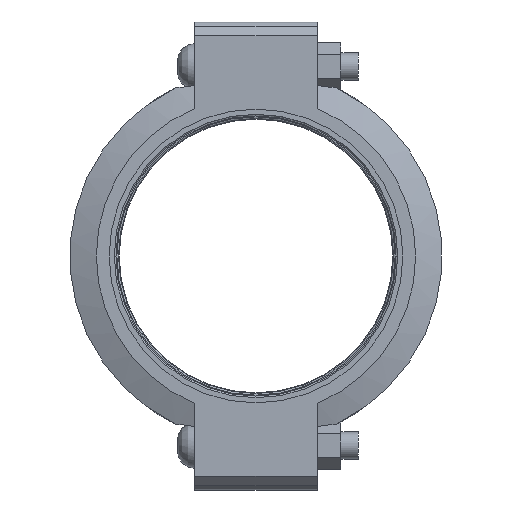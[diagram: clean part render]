
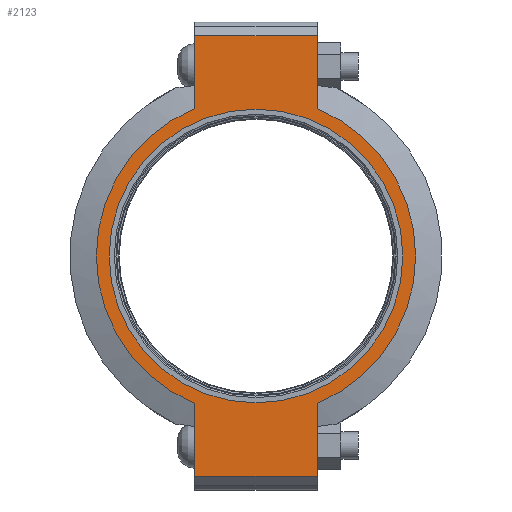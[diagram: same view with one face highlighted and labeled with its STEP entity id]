
A CAD part, left-side view. The second image highlights one B-rep face of the part: STEP entity #2123.
In plain terms, the highlighted planar face has unit normal (-1, 0, 0) as drawn and (0, 0, 1) by its records, which use the part's own axes.
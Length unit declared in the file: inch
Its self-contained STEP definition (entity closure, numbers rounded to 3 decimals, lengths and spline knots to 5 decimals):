
#176=LINE('',#3759,#271);
#187=LINE('',#3810,#282);
#193=LINE('',#3836,#288);
#195=LINE('',#3839,#290);
#196=LINE('',#3844,#291);
#197=LINE('',#3845,#292);
#271=VECTOR('',#3080,0.3937);
#282=VECTOR('',#3111,0.3937);
#288=VECTOR('',#3129,0.3937);
#290=VECTOR('',#3133,0.3937);
#291=VECTOR('',#3138,0.3937);
#292=VECTOR('',#3139,0.3937);
#359=FACE_BOUND('',#632,.T.);
#404=PLANE('',#2495);
#499=FACE_OUTER_BOUND('',#631,.T.);
#631=EDGE_LOOP('',(#1804,#1805,#1806,#1807,#1808,#1809,#1810,#1811));
#632=EDGE_LOOP('',(#1812));
#793=CIRCLE('',#2444,5.375);
#817=CIRCLE('',#2496,5.845);
#818=CIRCLE('',#2497,5.845);
#952=VERTEX_POINT('',#3585);
#993=VERTEX_POINT('',#3756);
#994=VERTEX_POINT('',#3758);
#1011=VERTEX_POINT('',#3805);
#1012=VERTEX_POINT('',#3809);
#1019=VERTEX_POINT('',#3831);
#1020=VERTEX_POINT('',#3835);
#1021=VERTEX_POINT('',#3841);
#1022=VERTEX_POINT('',#3843);
#1201=EDGE_CURVE('',#952,#952,#793,.T.);
#1258=EDGE_CURVE('',#994,#993,#176,.T.);
#1279=EDGE_CURVE('',#1012,#1011,#187,.T.);
#1290=EDGE_CURVE('',#1020,#1019,#193,.T.);
#1292=EDGE_CURVE('',#1020,#993,#195,.T.);
#1293=EDGE_CURVE('',#1019,#1021,#817,.T.);
#1294=EDGE_CURVE('',#1021,#1022,#196,.T.);
#1295=EDGE_CURVE('',#1012,#1022,#197,.T.);
#1296=EDGE_CURVE('',#1011,#994,#818,.T.);
#1804=ORIENTED_EDGE('',*,*,#1292,.F.);
#1805=ORIENTED_EDGE('',*,*,#1290,.T.);
#1806=ORIENTED_EDGE('',*,*,#1293,.T.);
#1807=ORIENTED_EDGE('',*,*,#1294,.T.);
#1808=ORIENTED_EDGE('',*,*,#1295,.F.);
#1809=ORIENTED_EDGE('',*,*,#1279,.T.);
#1810=ORIENTED_EDGE('',*,*,#1296,.T.);
#1811=ORIENTED_EDGE('',*,*,#1258,.T.);
#1812=ORIENTED_EDGE('',*,*,#1201,.T.);
#2123=ADVANCED_FACE('',(#499,#359),#404,.T.);
#2444=AXIS2_PLACEMENT_3D('',#3587,#2970,#2971);
#2495=AXIS2_PLACEMENT_3D('',#3840,#3134,#3135);
#2496=AXIS2_PLACEMENT_3D('',#3842,#3136,#3137);
#2497=AXIS2_PLACEMENT_3D('',#3846,#3140,#3141);
#2970=DIRECTION('center_axis',(0.,0.,-1.));
#2971=DIRECTION('ref_axis',(1.,0.,0.));
#3080=DIRECTION('',(1.,0.,0.));
#3111=DIRECTION('',(1.,0.,0.));
#3129=DIRECTION('',(-1.,0.,0.));
#3133=DIRECTION('',(0.,-1.,0.));
#3134=DIRECTION('center_axis',(0.,0.,1.));
#3135=DIRECTION('ref_axis',(-1.,0.,0.));
#3136=DIRECTION('center_axis',(0.,0.,1.));
#3137=DIRECTION('ref_axis',(1.,0.,0.));
#3138=DIRECTION('',(-1.,0.,0.));
#3139=DIRECTION('',(0.,1.,0.));
#3140=DIRECTION('center_axis',(0.,0.,1.));
#3141=DIRECTION('ref_axis',(1.,0.,0.));
#3585=CARTESIAN_POINT('',(-5.375,0.,1.315));
#3587=CARTESIAN_POINT('Origin',(0.,0.,1.315));
#3756=CARTESIAN_POINT('',(8.065,-2.25,1.315));
#3758=CARTESIAN_POINT('',(5.39458,-2.25,1.315));
#3759=CARTESIAN_POINT('',(-8.565,-2.25,1.315));
#3805=CARTESIAN_POINT('',(-5.39458,-2.25,1.315));
#3809=CARTESIAN_POINT('',(-8.065,-2.25,1.315));
#3810=CARTESIAN_POINT('',(-8.565,-2.25,1.315));
#3831=CARTESIAN_POINT('',(5.39458,2.25,1.315));
#3835=CARTESIAN_POINT('',(8.065,2.25,1.315));
#3836=CARTESIAN_POINT('',(8.565,2.25,1.315));
#3839=CARTESIAN_POINT('',(8.065,-1.125,1.315));
#3840=CARTESIAN_POINT('Origin',(0.,0.,
1.315));
#3841=CARTESIAN_POINT('',(-5.39458,2.25,1.315));
#3842=CARTESIAN_POINT('Origin',(0.,0.,1.315));
#3843=CARTESIAN_POINT('',(-8.065,2.25,1.315));
#3844=CARTESIAN_POINT('',(8.565,2.25,1.315));
#3845=CARTESIAN_POINT('',(-8.065,1.125,1.315));
#3846=CARTESIAN_POINT('Origin',(0.,0.,1.315));
